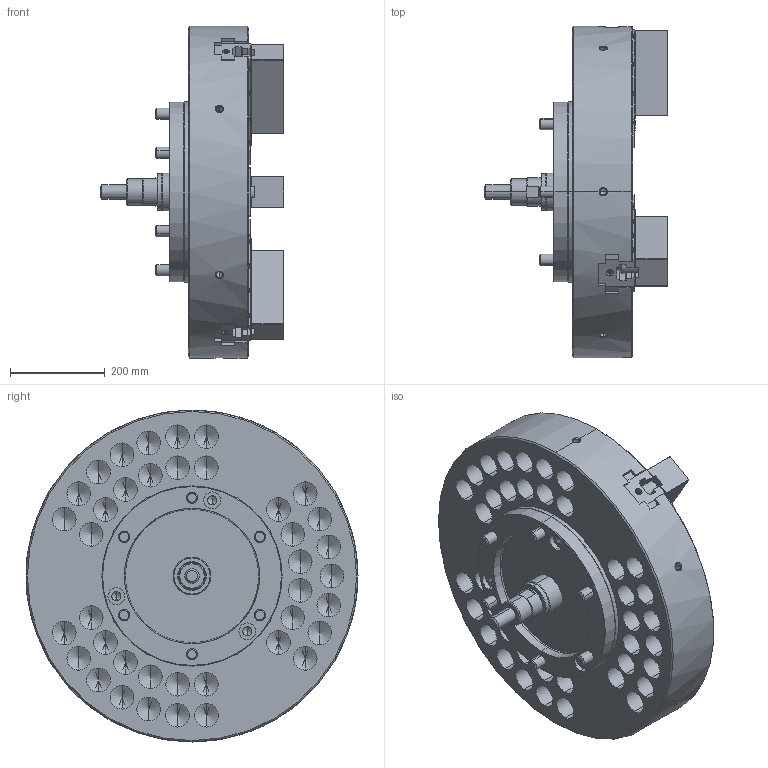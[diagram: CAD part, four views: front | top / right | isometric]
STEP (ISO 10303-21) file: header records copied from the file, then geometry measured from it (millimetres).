
FILE_DESCRIPTION (( 'STEP AP214' ), '1' );
FILE_NAME ('NV28C15_OC.STEP', '2019-12-19T07:33:28', ( '' ), ( '' ), 'SwSTEP 2.0', 'SolidWorks 2017', '' );
FILE_SCHEMA (( 'AUTOMOTIVE_DESIGN' ));
Length unit declared in the file: millimetre
Products named in the file (5): 61P418538_俿僫僢僩; P32262_ソフトジョー; NV28C15_OC; 結合; 0030120060
Assembly tree (16 placements, depth 2):
  NV28C15_OC
    P32262_ソフトジョー  x3
    61P418538_俿僫僢僩  x6
    0030120060  x6
    結合
Bounding box: 387 x 700 x 700 mm (x, y, z)
Volume: 49117355.7 mm3; surface area: 2024354.5 mm2
Topology: 16 solids, 16 shells, 5344 faces, 14779 edges, 9466 vertices
Faces by surface type: plane 4318, cylinder 485, cone 439, torus 96, sphere 6
Entity records: 135974 total; most frequent: CARTESIAN_POINT 26664, ORIENTED_EDGE 23394, DIRECTION 21380, EDGE_CURVE 11697, VECTOR 9898, LINE 9898, VERTEX_POINT 7577, AXIS2_PLACEMENT_3D 5741
